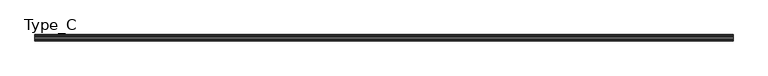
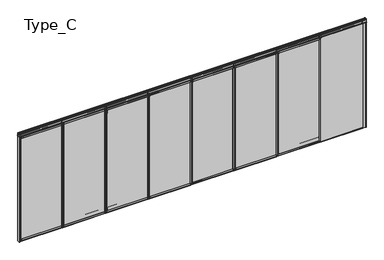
"""IFC4 building model written with IfcOpenShell, lengths in millimetres: proxy geometry, Planner Wall_ダブルガラス(NO Door) : Type_C."""

from ifc_helpers import new_model, si_unit, point, frame, frame_2d, origin, origin_with_axes, place, context, project, spatial, polyline, circle_curve, trimmed, segment, composite_curve, outline, extrude, source, transform, mapped, element, save


def type_c_bcd6d19d(model_context):
    return source(origin(), model_context, "Body", "SweptSolid", [
        extrude(outline(polyline([(-3223.5, -25.0), (-3223.5, 25.0), (-2081.375, 25.0), (-2081.375, -25.0), (-3223.5, -25.0)])), origin_with_axes(), (0.0, 0.0, 1.0), 65.0),
        extrude(outline(polyline([(-2097.875, 25.0), (-3201.5, 25.0), (-3201.5, 35.0), (-2097.875, 35.0), (-2097.875, 25.0)])), frame((0.0, 0.0, 2935.0), z_axis=(0.0, 0.0, 1.0), x_axis=(1.0, 0.0, 0.0)), (0.0, 0.0, 1.0), 40.0),
        extrude(outline(polyline([(-2097.875, 25.0), (-3201.5, 25.0), (-3201.5, 35.0), (-2097.875, 35.0), (-2097.875, 25.0)])), frame((0.0, 0.0, 25.0), z_axis=(0.0, 0.0, 1.0), x_axis=(1.0, 0.0, 0.0)), (0.0, 0.0, 1.0), 40.0),
        extrude(outline(polyline([(-3183.5, -27.0), (-3201.5, -27.0), (-3201.5, 27.0), (-3183.5, 27.0), (-3183.5, -27.0)])), frame((0.0, 0.0, 65.0), z_axis=(0.0, 0.0, 1.0), x_axis=(1.0, 0.0, 0.0)), (0.0, 0.0, 1.0), 2870.0),
        extrude(outline(polyline([(-2097.875, -27.0), (-2115.875, -27.0), (-2115.875, 27.0), (-2097.875, 27.0), (-2097.875, -27.0)])), frame((0.0, 0.0, 65.0), z_axis=(0.0, 0.0, 1.0), x_axis=(1.0, 0.0, 0.0)), (0.0, 0.0, 1.0), 2870.0),
        extrude(outline(polyline([(-2115.875, -27.0), (-3183.5, -27.0), (-3183.5, 27.0), (-2115.875, 27.0), (-2115.875, -27.0)])), frame((0.0, 0.0, 65.0), z_axis=(0.0, 0.0, 1.0), x_axis=(1.0, 0.0, 0.0)), (0.0, 0.0, 1.0), 102.0),
        extrude(outline(polyline([(-2115.875, -27.0), (-3183.5, -27.0), (-3183.5, 27.0), (-2115.875, 27.0), (-2115.875, -27.0)])), frame((0.0, 0.0, 2833.0), z_axis=(0.0, 0.0, 1.0), x_axis=(1.0, 0.0, 0.0)), (0.0, 0.0, 1.0), 102.0),
        extrude(outline(composite_curve([segment(polyline([(23.5, 3050.1000003), (26.5, 3047.1000003), (26.5, 3032.6)]), True, "CONTINUOUS"), segment(trimmed(circle_curve(frame_2d((25.0, 3032.6)), 1.5), [point((26.5, 3032.6))], [point((25.0, 3031.1))], False, "CARTESIAN"), True, "CONTINUOUS"), segment(polyline([(25.0, 3031.1), (9.0, 3031.1), (9.0, 3019.1000003), (23.5, 3019.1000003), (26.5, 3016.1000003), (26.5, 3001.5)]), True, "CONTINUOUS"), segment(trimmed(circle_curve(frame_2d((25.0, 3001.5)), 1.5), [point((26.5, 3001.5))], [point((25.0, 3000.0))], False, "CARTESIAN"), True, "CONTINUOUS"), segment(polyline([(25.0, 3000.0), (7.5, 3000.0), (7.5, 2994.5), (25.0, 2994.5), (25.0, 2935.0), (-25.0, 2935.0), (-25.0, 2994.5), (-7.5, 2994.5), (-7.5, 3000.0), (-25.0, 3000.0)]), True, "CONTINUOUS"), segment(trimmed(circle_curve(frame_2d((-25.0, 3001.5)), 1.5), [point((-25.0, 3000.0))], [point((-26.5, 3001.5))], False, "CARTESIAN"), True, "CONTINUOUS"), segment(polyline([(-26.5, 3001.5), (-26.5, 3016.1000003), (-23.5, 3019.1000003), (-9.0, 3019.1000003), (-9.0, 3031.1), (-25.0, 3031.1)]), True, "CONTINUOUS"), segment(trimmed(circle_curve(frame_2d((-25.0, 3032.6)), 1.5), [point((-25.0, 3031.1))], [point((-26.5, 3032.6))], False, "CARTESIAN"), True, "CONTINUOUS"), segment(polyline([(-26.5, 3032.6), (-26.5, 3047.1000003), (-23.5, 3050.1000003), (23.5, 3050.1000003)]), True, "CONTINUOUS")], self_intersect=False)), frame((-3223.5, 0.0, 0.0), z_axis=(1.0, 0.0, 0.0), x_axis=(0.0, 1.0, 0.0)), (0.0, 0.0, 1.0), 1147.625),
        extrude(outline(polyline([(-2097.875, 27.5), (-3201.5, 27.5), (-3201.5, 32.5), (-2097.875, 32.5), (-2097.875, 27.5)])), frame((0.0, 0.0, 65.0), z_axis=(0.0, 0.0, 1.0), x_axis=(1.0, 0.0, 0.0)), (0.0, 0.0, 1.0), 2870.0),
        extrude(outline(polyline([(-2097.875, -32.5), (-3201.5, -32.5), (-3201.5, -27.5), (-2097.875, -27.5), (-2097.875, -32.5)])), frame((0.0, 0.0, 65.0), z_axis=(0.0, 0.0, 1.0), x_axis=(1.0, 0.0, 0.0)), (0.0, 0.0, 1.0), 2870.0),
        extrude(outline(polyline([(-2097.875, -35.0), (-3201.5, -35.0), (-3201.5, -25.0), (-2097.875, -25.0), (-2097.875, -35.0)])), frame((0.0, 0.0, 2935.0), z_axis=(0.0, 0.0, 1.0), x_axis=(1.0, 0.0, 0.0)), (0.0, 0.0, 1.0), 40.0),
        extrude(outline(polyline([(-2097.875, -35.0), (-3201.5, -35.0), (-3201.5, -25.0), (-2097.875, -25.0), (-2097.875, -35.0)])), frame((0.0, 0.0, 25.0), z_axis=(0.0, 0.0, 1.0), x_axis=(1.0, 0.0, 0.0)), (0.0, 0.0, 1.0), 40.0),
        extrude(outline(polyline([(-3237.0, -25.0), (-3237.0, 25.0), (-3223.5, 25.0), (-3223.5, -25.0), (-3237.0, -25.0)])), frame((0.0, 0.0, 53.0), z_axis=(0.0, 0.0, 1.0), x_axis=(1.0, 0.0, 0.0)), (0.0, 0.0, 1.0), 2869.0),
        extrude(outline(polyline([(-2097.875, 35.0), (-2075.875, 35.0), (-2075.875, 25.0), (-2097.875, 25.0), (-2097.875, 35.0)])), frame((0.0, 0.0, 25.0), z_axis=(0.0, 0.0, 1.0), x_axis=(1.0, 0.0, 0.0)), (0.0, 0.0, 1.0), 2950.0),
        extrude(outline(polyline([(-2097.875, -35.0), (-2097.875, -25.0), (-2075.875, -25.0), (-2075.875, -35.0), (-2097.875, -35.0)])), frame((0.0, 0.0, 25.0), z_axis=(0.0, 0.0, 1.0), x_axis=(1.0, 0.0, 0.0)), (0.0, 0.0, 1.0), 2950.0),
        extrude(outline(polyline([(-3223.5, -35.0), (-3223.5, -25.0), (-3201.5, -25.0), (-3201.5, -35.0), (-3223.5, -35.0)])), frame((0.0, 0.0, 25.0), z_axis=(0.0, 0.0, 1.0), x_axis=(1.0, 0.0, 0.0)), (0.0, 0.0, 1.0), 2950.0),
        extrude(outline(polyline([(-3223.5, 25.0), (-3223.5, 35.0), (-3201.5, 35.0), (-3201.5, 25.0), (-3223.5, 25.0)])), frame((0.0, 0.0, 25.0), z_axis=(0.0, 0.0, 1.0), x_axis=(1.0, 0.0, 0.0)), (0.0, 0.0, 1.0), 2950.0),
        extrude(outline(polyline([(-2067.875, -25.0), (-2067.875, 25.0), (-925.75, 25.0), (-925.75, -25.0), (-2067.875, -25.0)])), origin_with_axes(), (0.0, 0.0, 1.0), 65.0),
        extrude(outline(polyline([(-942.25, 25.0), (-2045.875, 25.0), (-2045.875, 35.0), (-942.25, 35.0), (-942.25, 25.0)])), frame((0.0, 0.0, 2935.0), z_axis=(0.0, 0.0, 1.0), x_axis=(1.0, 0.0, 0.0)), (0.0, 0.0, 1.0), 40.0),
        extrude(outline(polyline([(-942.25, 25.0), (-2045.875, 25.0), (-2045.875, 35.0), (-942.25, 35.0), (-942.25, 25.0)])), frame((0.0, 0.0, 25.0), z_axis=(0.0, 0.0, 1.0), x_axis=(1.0, 0.0, 0.0)), (0.0, 0.0, 1.0), 40.0),
        extrude(outline(polyline([(-2027.875, -27.0), (-2045.875, -27.0), (-2045.875, 27.0), (-2027.875, 27.0), (-2027.875, -27.0)])), frame((0.0, 0.0, 65.0), z_axis=(0.0, 0.0, 1.0), x_axis=(1.0, 0.0, 0.0)), (0.0, 0.0, 1.0), 2870.0),
        extrude(outline(polyline([(-942.25, -27.0), (-960.25, -27.0), (-960.25, 27.0), (-942.25, 27.0), (-942.25, -27.0)])), frame((0.0, 0.0, 65.0), z_axis=(0.0, 0.0, 1.0), x_axis=(1.0, 0.0, 0.0)), (0.0, 0.0, 1.0), 2870.0),
        extrude(outline(polyline([(-960.25, -27.0), (-2027.875, -27.0), (-2027.875, 27.0), (-960.25, 27.0), (-960.25, -27.0)])), frame((0.0, 0.0, 65.0), z_axis=(0.0, 0.0, 1.0), x_axis=(1.0, 0.0, 0.0)), (0.0, 0.0, 1.0), 102.0),
        extrude(outline(polyline([(-960.25, -27.0), (-2027.875, -27.0), (-2027.875, 27.0), (-960.25, 27.0), (-960.25, -27.0)])), frame((0.0, 0.0, 2833.0), z_axis=(0.0, 0.0, 1.0), x_axis=(1.0, 0.0, 0.0)), (0.0, 0.0, 1.0), 102.0),
        extrude(outline(composite_curve([segment(polyline([(23.5, 3050.1000003), (26.5, 3047.1000003), (26.5, 3032.6)]), True, "CONTINUOUS"), segment(trimmed(circle_curve(frame_2d((25.0, 3032.6)), 1.5), [point((26.5, 3032.6))], [point((25.0, 3031.1))], False, "CARTESIAN"), True, "CONTINUOUS"), segment(polyline([(25.0, 3031.1), (9.0, 3031.1), (9.0, 3019.1000003), (23.5, 3019.1000003), (26.5, 3016.1000003), (26.5, 3001.5)]), True, "CONTINUOUS"), segment(trimmed(circle_curve(frame_2d((25.0, 3001.5)), 1.5), [point((26.5, 3001.5))], [point((25.0, 3000.0))], False, "CARTESIAN"), True, "CONTINUOUS"), segment(polyline([(25.0, 3000.0), (7.5, 3000.0), (7.5, 2994.5), (25.0, 2994.5), (25.0, 2935.0), (-25.0, 2935.0), (-25.0, 2994.5), (-7.5, 2994.5), (-7.5, 3000.0), (-25.0, 3000.0)]), True, "CONTINUOUS"), segment(trimmed(circle_curve(frame_2d((-25.0, 3001.5)), 1.5), [point((-25.0, 3000.0))], [point((-26.5, 3001.5))], False, "CARTESIAN"), True, "CONTINUOUS"), segment(polyline([(-26.5, 3001.5), (-26.5, 3016.1000003), (-23.5, 3019.1000003), (-9.0, 3019.1000003), (-9.0, 3031.1), (-25.0, 3031.1)]), True, "CONTINUOUS"), segment(trimmed(circle_curve(frame_2d((-25.0, 3032.6)), 1.5), [point((-25.0, 3031.1))], [point((-26.5, 3032.6))], False, "CARTESIAN"), True, "CONTINUOUS"), segment(polyline([(-26.5, 3032.6), (-26.5, 3047.1000003), (-23.5, 3050.1000003), (23.5, 3050.1000003)]), True, "CONTINUOUS")], self_intersect=False)), frame((-2067.875, 0.0, 0.0), z_axis=(1.0, 0.0, 0.0), x_axis=(0.0, 1.0, 0.0)), (0.0, 0.0, 1.0), 1147.625),
        extrude(outline(polyline([(-942.25, 27.5), (-2045.875, 27.5), (-2045.875, 32.5), (-942.25, 32.5), (-942.25, 27.5)])), frame((0.0, 0.0, 65.0), z_axis=(0.0, 0.0, 1.0), x_axis=(1.0, 0.0, 0.0)), (0.0, 0.0, 1.0), 2870.0),
        extrude(outline(polyline([(-942.25, -32.5), (-2045.875, -32.5), (-2045.875, -27.5), (-942.25, -27.5), (-942.25, -32.5)])), frame((0.0, 0.0, 65.0), z_axis=(0.0, 0.0, 1.0), x_axis=(1.0, 0.0, 0.0)), (0.0, 0.0, 1.0), 2870.0),
        extrude(outline(polyline([(-942.25, -35.0), (-2045.875, -35.0), (-2045.875, -25.0), (-942.25, -25.0), (-942.25, -35.0)])), frame((0.0, 0.0, 2935.0), z_axis=(0.0, 0.0, 1.0), x_axis=(1.0, 0.0, 0.0)), (0.0, 0.0, 1.0), 40.0),
        extrude(outline(polyline([(-942.25, -35.0), (-2045.875, -35.0), (-2045.875, -25.0), (-942.25, -25.0), (-942.25, -35.0)])), frame((0.0, 0.0, 25.0), z_axis=(0.0, 0.0, 1.0), x_axis=(1.0, 0.0, 0.0)), (0.0, 0.0, 1.0), 40.0),
        extrude(outline(polyline([(-2081.375, -25.0), (-2081.375, 25.0), (-2067.875, 25.0), (-2067.875, -25.0), (-2081.375, -25.0)])), frame((0.0, 0.0, 53.0), z_axis=(0.0, 0.0, 1.0), x_axis=(1.0, 0.0, 0.0)), (0.0, 0.0, 1.0), 2869.0),
        extrude(outline(polyline([(-942.25, 35.0), (-920.25, 35.0), (-920.25, 25.0), (-942.25, 25.0), (-942.25, 35.0)])), frame((0.0, 0.0, 25.0), z_axis=(0.0, 0.0, 1.0), x_axis=(1.0, 0.0, 0.0)), (0.0, 0.0, 1.0), 2950.0),
        extrude(outline(polyline([(-942.25, -35.0), (-942.25, -25.0), (-920.25, -25.0), (-920.25, -35.0), (-942.25, -35.0)])), frame((0.0, 0.0, 25.0), z_axis=(0.0, 0.0, 1.0), x_axis=(1.0, 0.0, 0.0)), (0.0, 0.0, 1.0), 2950.0),
        extrude(outline(polyline([(-2067.875, -35.0), (-2067.875, -25.0), (-2045.875, -25.0), (-2045.875, -35.0), (-2067.875, -35.0)])), frame((0.0, 0.0, 25.0), z_axis=(0.0, 0.0, 1.0), x_axis=(1.0, 0.0, 0.0)), (0.0, 0.0, 1.0), 2950.0),
        extrude(outline(polyline([(-2067.875, 25.0), (-2067.875, 35.0), (-2045.875, 35.0), (-2045.875, 25.0), (-2067.875, 25.0)])), frame((0.0, 0.0, 25.0), z_axis=(0.0, 0.0, 1.0), x_axis=(1.0, 0.0, 0.0)), (0.0, 0.0, 1.0), 2950.0),
        extrude(outline(polyline([(-912.25, -25.0), (-912.25, 25.0), (229.875, 25.0), (229.875, -25.0), (-912.25, -25.0)])), origin_with_axes(), (0.0, 0.0, 1.0), 65.0),
        extrude(outline(polyline([(213.375, 25.0), (-890.25, 25.0), (-890.25, 35.0), (213.375, 35.0), (213.375, 25.0)])), frame((0.0, 0.0, 2935.0), z_axis=(0.0, 0.0, 1.0), x_axis=(1.0, 0.0, 0.0)), (0.0, 0.0, 1.0), 40.0),
        extrude(outline(polyline([(213.375, 25.0), (-890.25, 25.0), (-890.25, 35.0), (213.375, 35.0), (213.375, 25.0)])), frame((0.0, 0.0, 25.0), z_axis=(0.0, 0.0, 1.0), x_axis=(1.0, 0.0, 0.0)), (0.0, 0.0, 1.0), 40.0),
        extrude(outline(polyline([(-872.25, -27.0), (-890.25, -27.0), (-890.25, 27.0), (-872.25, 27.0), (-872.25, -27.0)])), frame((0.0, 0.0, 65.0), z_axis=(0.0, 0.0, 1.0), x_axis=(1.0, 0.0, 0.0)), (0.0, 0.0, 1.0), 2870.0),
        extrude(outline(polyline([(213.375, -27.0), (195.375, -27.0), (195.375, 27.0), (213.375, 27.0), (213.375, -27.0)])), frame((0.0, 0.0, 65.0), z_axis=(0.0, 0.0, 1.0), x_axis=(1.0, 0.0, 0.0)), (0.0, 0.0, 1.0), 2870.0),
        extrude(outline(polyline([(195.375, -27.0), (-872.25, -27.0), (-872.25, 27.0), (195.375, 27.0), (195.375, -27.0)])), frame((0.0, 0.0, 65.0), z_axis=(0.0, 0.0, 1.0), x_axis=(1.0, 0.0, 0.0)), (0.0, 0.0, 1.0), 102.0),
        extrude(outline(polyline([(195.375, -27.0), (-872.25, -27.0), (-872.25, 27.0), (195.375, 27.0), (195.375, -27.0)])), frame((0.0, 0.0, 2833.0), z_axis=(0.0, 0.0, 1.0), x_axis=(1.0, 0.0, 0.0)), (0.0, 0.0, 1.0), 102.0),
        extrude(outline(composite_curve([segment(polyline([(23.5, 3050.1000003), (26.5, 3047.1000003), (26.5, 3032.6)]), True, "CONTINUOUS"), segment(trimmed(circle_curve(frame_2d((25.0, 3032.6)), 1.5), [point((26.5, 3032.6))], [point((25.0, 3031.1))], False, "CARTESIAN"), True, "CONTINUOUS"), segment(polyline([(25.0, 3031.1), (9.0, 3031.1), (9.0, 3019.1000003), (23.5, 3019.1000003), (26.5, 3016.1000003), (26.5, 3001.5)]), True, "CONTINUOUS"), segment(trimmed(circle_curve(frame_2d((25.0, 3001.5)), 1.5), [point((26.5, 3001.5))], [point((25.0, 3000.0))], False, "CARTESIAN"), True, "CONTINUOUS"), segment(polyline([(25.0, 3000.0), (7.5, 3000.0), (7.5, 2994.5), (25.0, 2994.5), (25.0, 2935.0), (-25.0, 2935.0), (-25.0, 2994.5), (-7.5, 2994.5), (-7.5, 3000.0), (-25.0, 3000.0)]), True, "CONTINUOUS"), segment(trimmed(circle_curve(frame_2d((-25.0, 3001.5)), 1.5), [point((-25.0, 3000.0))], [point((-26.5, 3001.5))], False, "CARTESIAN"), True, "CONTINUOUS"), segment(polyline([(-26.5, 3001.5), (-26.5, 3016.1000003), (-23.5, 3019.1000003), (-9.0, 3019.1000003), (-9.0, 3031.1), (-25.0, 3031.1)]), True, "CONTINUOUS"), segment(trimmed(circle_curve(frame_2d((-25.0, 3032.6)), 1.5), [point((-25.0, 3031.1))], [point((-26.5, 3032.6))], False, "CARTESIAN"), True, "CONTINUOUS"), segment(polyline([(-26.5, 3032.6), (-26.5, 3047.1000003), (-23.5, 3050.1000003), (23.5, 3050.1000003)]), True, "CONTINUOUS")], self_intersect=False)), frame((-912.25, 0.0, 0.0), z_axis=(1.0, 0.0, 0.0), x_axis=(0.0, 1.0, 0.0)), (0.0, 0.0, 1.0), 1147.625),
        extrude(outline(polyline([(213.375, 27.5), (-890.25, 27.5), (-890.25, 32.5), (213.375, 32.5), (213.375, 27.5)])), frame((0.0, 0.0, 65.0), z_axis=(0.0, 0.0, 1.0), x_axis=(1.0, 0.0, 0.0)), (0.0, 0.0, 1.0), 2870.0),
        extrude(outline(polyline([(213.375, -32.5), (-890.25, -32.5), (-890.25, -27.5), (213.375, -27.5), (213.375, -32.5)])), frame((0.0, 0.0, 65.0), z_axis=(0.0, 0.0, 1.0), x_axis=(1.0, 0.0, 0.0)), (0.0, 0.0, 1.0), 2870.0),
        extrude(outline(polyline([(213.375, -35.0), (-890.25, -35.0), (-890.25, -25.0), (213.375, -25.0), (213.375, -35.0)])), frame((0.0, 0.0, 2935.0), z_axis=(0.0, 0.0, 1.0), x_axis=(1.0, 0.0, 0.0)), (0.0, 0.0, 1.0), 40.0),
        extrude(outline(polyline([(213.375, -35.0), (-890.25, -35.0), (-890.25, -25.0), (213.375, -25.0), (213.375, -35.0)])), frame((0.0, 0.0, 25.0), z_axis=(0.0, 0.0, 1.0), x_axis=(1.0, 0.0, 0.0)), (0.0, 0.0, 1.0), 40.0),
        extrude(outline(polyline([(-925.75, -25.0), (-925.75, 25.0), (-912.25, 25.0), (-912.25, -25.0), (-925.75, -25.0)])), frame((0.0, 0.0, 53.0), z_axis=(0.0, 0.0, 1.0), x_axis=(1.0, 0.0, 0.0)), (0.0, 0.0, 1.0), 2869.0),
        extrude(outline(polyline([(213.375, 35.0), (235.375, 35.0), (235.375, 25.0), (213.375, 25.0), (213.375, 35.0)])), frame((0.0, 0.0, 25.0), z_axis=(0.0, 0.0, 1.0), x_axis=(1.0, 0.0, 0.0)), (0.0, 0.0, 1.0), 2950.0),
        extrude(outline(polyline([(213.375, -35.0), (213.375, -25.0), (235.375, -25.0), (235.375, -35.0), (213.375, -35.0)])), frame((0.0, 0.0, 25.0), z_axis=(0.0, 0.0, 1.0), x_axis=(1.0, 0.0, 0.0)), (0.0, 0.0, 1.0), 2950.0),
        extrude(outline(polyline([(-912.25, -35.0), (-912.25, -25.0), (-890.25, -25.0), (-890.25, -35.0), (-912.25, -35.0)])), frame((0.0, 0.0, 25.0), z_axis=(0.0, 0.0, 1.0), x_axis=(1.0, 0.0, 0.0)), (0.0, 0.0, 1.0), 2950.0),
        extrude(outline(polyline([(-912.25, 25.0), (-912.25, 35.0), (-890.25, 35.0), (-890.25, 25.0), (-912.25, 25.0)])), frame((0.0, 0.0, 25.0), z_axis=(0.0, 0.0, 1.0), x_axis=(1.0, 0.0, 0.0)), (0.0, 0.0, 1.0), 2950.0),
        extrude(outline(polyline([(243.375, -25.0), (243.375, 25.0), (1385.5, 25.0), (1385.5, -25.0), (243.375, -25.0)])), origin_with_axes(), (0.0, 0.0, 1.0), 65.0),
        extrude(outline(polyline([(1369.0, 25.0), (265.375, 25.0), (265.375, 35.0), (1369.0, 35.0), (1369.0, 25.0)])), frame((0.0, 0.0, 2935.0), z_axis=(0.0, 0.0, 1.0), x_axis=(1.0, 0.0, 0.0)), (0.0, 0.0, 1.0), 40.0),
        extrude(outline(polyline([(1369.0, 25.0), (265.375, 25.0), (265.375, 35.0), (1369.0, 35.0), (1369.0, 25.0)])), frame((0.0, 0.0, 25.0), z_axis=(0.0, 0.0, 1.0), x_axis=(1.0, 0.0, 0.0)), (0.0, 0.0, 1.0), 40.0),
        extrude(outline(polyline([(283.375, -27.0), (265.375, -27.0), (265.375, 27.0), (283.375, 27.0), (283.375, -27.0)])), frame((0.0, 0.0, 65.0), z_axis=(0.0, 0.0, 1.0), x_axis=(1.0, 0.0, 0.0)), (0.0, 0.0, 1.0), 2870.0),
        extrude(outline(polyline([(1369.0, -27.0), (1351.0, -27.0), (1351.0, 27.0), (1369.0, 27.0), (1369.0, -27.0)])), frame((0.0, 0.0, 65.0), z_axis=(0.0, 0.0, 1.0), x_axis=(1.0, 0.0, 0.0)), (0.0, 0.0, 1.0), 2870.0),
        extrude(outline(polyline([(1351.0, -27.0), (283.375, -27.0), (283.375, 27.0), (1351.0, 27.0), (1351.0, -27.0)])), frame((0.0, 0.0, 65.0), z_axis=(0.0, 0.0, 1.0), x_axis=(1.0, 0.0, 0.0)), (0.0, 0.0, 1.0), 102.0),
        extrude(outline(polyline([(1351.0, -27.0), (283.375, -27.0), (283.375, 27.0), (1351.0, 27.0), (1351.0, -27.0)])), frame((0.0, 0.0, 2833.0), z_axis=(0.0, 0.0, 1.0), x_axis=(1.0, 0.0, 0.0)), (0.0, 0.0, 1.0), 102.0),
        extrude(outline(composite_curve([segment(polyline([(23.5, 3050.1000003), (26.5, 3047.1000003), (26.5, 3032.6)]), True, "CONTINUOUS"), segment(trimmed(circle_curve(frame_2d((25.0, 3032.6)), 1.5), [point((26.5, 3032.6))], [point((25.0, 3031.1))], False, "CARTESIAN"), True, "CONTINUOUS"), segment(polyline([(25.0, 3031.1), (9.0, 3031.1), (9.0, 3019.1000003), (23.5, 3019.1000003), (26.5, 3016.1000003), (26.5, 3001.5)]), True, "CONTINUOUS"), segment(trimmed(circle_curve(frame_2d((25.0, 3001.5)), 1.5), [point((26.5, 3001.5))], [point((25.0, 3000.0))], False, "CARTESIAN"), True, "CONTINUOUS"), segment(polyline([(25.0, 3000.0), (7.5, 3000.0), (7.5, 2994.5), (25.0, 2994.5), (25.0, 2935.0), (-25.0, 2935.0), (-25.0, 2994.5), (-7.5, 2994.5), (-7.5, 3000.0), (-25.0, 3000.0)]), True, "CONTINUOUS"), segment(trimmed(circle_curve(frame_2d((-25.0, 3001.5)), 1.5), [point((-25.0, 3000.0))], [point((-26.5, 3001.5))], False, "CARTESIAN"), True, "CONTINUOUS"), segment(polyline([(-26.5, 3001.5), (-26.5, 3016.1000003), (-23.5, 3019.1000003), (-9.0, 3019.1000003), (-9.0, 3031.1), (-25.0, 3031.1)]), True, "CONTINUOUS"), segment(trimmed(circle_curve(frame_2d((-25.0, 3032.6)), 1.5), [point((-25.0, 3031.1))], [point((-26.5, 3032.6))], False, "CARTESIAN"), True, "CONTINUOUS"), segment(polyline([(-26.5, 3032.6), (-26.5, 3047.1000003), (-23.5, 3050.1000003), (23.5, 3050.1000003)]), True, "CONTINUOUS")], self_intersect=False)), frame((243.375, 0.0, 0.0), z_axis=(1.0, 0.0, 0.0), x_axis=(0.0, 1.0, 0.0)), (0.0, 0.0, 1.0), 1147.625),
        extrude(outline(polyline([(1369.0, 27.5), (265.375, 27.5), (265.375, 32.5), (1369.0, 32.5), (1369.0, 27.5)])), frame((0.0, 0.0, 65.0), z_axis=(0.0, 0.0, 1.0), x_axis=(1.0, 0.0, 0.0)), (0.0, 0.0, 1.0), 2870.0),
        extrude(outline(polyline([(1369.0, -32.5), (265.375, -32.5), (265.375, -27.5), (1369.0, -27.5), (1369.0, -32.5)])), frame((0.0, 0.0, 65.0), z_axis=(0.0, 0.0, 1.0), x_axis=(1.0, 0.0, 0.0)), (0.0, 0.0, 1.0), 2870.0),
        extrude(outline(polyline([(1369.0, -35.0), (265.375, -35.0), (265.375, -25.0), (1369.0, -25.0), (1369.0, -35.0)])), frame((0.0, 0.0, 2935.0), z_axis=(0.0, 0.0, 1.0), x_axis=(1.0, 0.0, 0.0)), (0.0, 0.0, 1.0), 40.0),
        extrude(outline(polyline([(1369.0, -35.0), (265.375, -35.0), (265.375, -25.0), (1369.0, -25.0), (1369.0, -35.0)])), frame((0.0, 0.0, 25.0), z_axis=(0.0, 0.0, 1.0), x_axis=(1.0, 0.0, 0.0)), (0.0, 0.0, 1.0), 40.0),
        extrude(outline(polyline([(229.875, -25.0), (229.875, 25.0), (243.375, 25.0), (243.375, -25.0), (229.875, -25.0)])), frame((0.0, 0.0, 53.0), z_axis=(0.0, 0.0, 1.0), x_axis=(1.0, 0.0, 0.0)), (0.0, 0.0, 1.0), 2869.0),
        extrude(outline(polyline([(1369.0, 35.0), (1391.0, 35.0), (1391.0, 25.0), (1369.0, 25.0), (1369.0, 35.0)])), frame((0.0, 0.0, 25.0), z_axis=(0.0, 0.0, 1.0), x_axis=(1.0, 0.0, 0.0)), (0.0, 0.0, 1.0), 2950.0),
        extrude(outline(polyline([(1369.0, -35.0), (1369.0, -25.0), (1391.0, -25.0), (1391.0, -35.0), (1369.0, -35.0)])), frame((0.0, 0.0, 25.0), z_axis=(0.0, 0.0, 1.0), x_axis=(1.0, 0.0, 0.0)), (0.0, 0.0, 1.0), 2950.0),
        extrude(outline(polyline([(243.375, -35.0), (243.375, -25.0), (265.375, -25.0), (265.375, -35.0), (243.375, -35.0)])), frame((0.0, 0.0, 25.0), z_axis=(0.0, 0.0, 1.0), x_axis=(1.0, 0.0, 0.0)), (0.0, 0.0, 1.0), 2950.0),
        extrude(outline(polyline([(243.375, 25.0), (243.375, 35.0), (265.375, 35.0), (265.375, 25.0), (243.375, 25.0)])), frame((0.0, 0.0, 25.0), z_axis=(0.0, 0.0, 1.0), x_axis=(1.0, 0.0, 0.0)), (0.0, 0.0, 1.0), 2950.0),
        extrude(outline(polyline([(1399.0, -25.0), (1399.0, 25.0), (2541.125, 25.0), (2541.125, -25.0), (1399.0, -25.0)])), origin_with_axes(), (0.0, 0.0, 1.0), 65.0),
        extrude(outline(polyline([(2524.625, 25.0), (1421.0, 25.0), (1421.0, 35.0), (2524.625, 35.0), (2524.625, 25.0)])), frame((0.0, 0.0, 2935.0), z_axis=(0.0, 0.0, 1.0), x_axis=(1.0, 0.0, 0.0)), (0.0, 0.0, 1.0), 40.0),
        extrude(outline(polyline([(2524.625, 25.0), (1421.0, 25.0), (1421.0, 35.0), (2524.625, 35.0), (2524.625, 25.0)])), frame((0.0, 0.0, 25.0), z_axis=(0.0, 0.0, 1.0), x_axis=(1.0, 0.0, 0.0)), (0.0, 0.0, 1.0), 40.0),
        extrude(outline(polyline([(1439.0, -27.0), (1421.0, -27.0), (1421.0, 27.0), (1439.0, 27.0), (1439.0, -27.0)])), frame((0.0, 0.0, 65.0), z_axis=(0.0, 0.0, 1.0), x_axis=(1.0, 0.0, 0.0)), (0.0, 0.0, 1.0), 2870.0),
        extrude(outline(polyline([(2524.625, -27.0), (2506.625, -27.0), (2506.625, 27.0), (2524.625, 27.0), (2524.625, -27.0)])), frame((0.0, 0.0, 65.0), z_axis=(0.0, 0.0, 1.0), x_axis=(1.0, 0.0, 0.0)), (0.0, 0.0, 1.0), 2870.0),
        extrude(outline(polyline([(2506.625, -27.0), (1439.0, -27.0), (1439.0, 27.0), (2506.625, 27.0), (2506.625, -27.0)])), frame((0.0, 0.0, 65.0), z_axis=(0.0, 0.0, 1.0), x_axis=(1.0, 0.0, 0.0)), (0.0, 0.0, 1.0), 102.0),
        extrude(outline(polyline([(2506.625, -27.0), (1439.0, -27.0), (1439.0, 27.0), (2506.625, 27.0), (2506.625, -27.0)])), frame((0.0, 0.0, 2833.0), z_axis=(0.0, 0.0, 1.0), x_axis=(1.0, 0.0, 0.0)), (0.0, 0.0, 1.0), 102.0),
        extrude(outline(composite_curve([segment(polyline([(23.5, 3050.1000003), (26.5, 3047.1000003), (26.5, 3032.6)]), True, "CONTINUOUS"), segment(trimmed(circle_curve(frame_2d((25.0, 3032.6)), 1.5), [point((26.5, 3032.6))], [point((25.0, 3031.1))], False, "CARTESIAN"), True, "CONTINUOUS"), segment(polyline([(25.0, 3031.1), (9.0, 3031.1), (9.0, 3019.1000003), (23.5, 3019.1000003), (26.5, 3016.1000003), (26.5, 3001.5)]), True, "CONTINUOUS"), segment(trimmed(circle_curve(frame_2d((25.0, 3001.5)), 1.5), [point((26.5, 3001.5))], [point((25.0, 3000.0))], False, "CARTESIAN"), True, "CONTINUOUS"), segment(polyline([(25.0, 3000.0), (7.5, 3000.0), (7.5, 2994.5), (25.0, 2994.5), (25.0, 2935.0), (-25.0, 2935.0), (-25.0, 2994.5), (-7.5, 2994.5), (-7.5, 3000.0), (-25.0, 3000.0)]), True, "CONTINUOUS"), segment(trimmed(circle_curve(frame_2d((-25.0, 3001.5)), 1.5), [point((-25.0, 3000.0))], [point((-26.5, 3001.5))], False, "CARTESIAN"), True, "CONTINUOUS"), segment(polyline([(-26.5, 3001.5), (-26.5, 3016.1000003), (-23.5, 3019.1000003), (-9.0, 3019.1000003), (-9.0, 3031.1), (-25.0, 3031.1)]), True, "CONTINUOUS"), segment(trimmed(circle_curve(frame_2d((-25.0, 3032.6)), 1.5), [point((-25.0, 3031.1))], [point((-26.5, 3032.6))], False, "CARTESIAN"), True, "CONTINUOUS"), segment(polyline([(-26.5, 3032.6), (-26.5, 3047.1000003), (-23.5, 3050.1000003), (23.5, 3050.1000003)]), True, "CONTINUOUS")], self_intersect=False)), frame((1399.0, 0.0, 0.0), z_axis=(1.0, 0.0, 0.0), x_axis=(0.0, 1.0, 0.0)), (0.0, 0.0, 1.0), 1147.625),
        extrude(outline(polyline([(2524.625, 27.5), (1421.0, 27.5), (1421.0, 32.5), (2524.625, 32.5), (2524.625, 27.5)])), frame((0.0, 0.0, 65.0), z_axis=(0.0, 0.0, 1.0), x_axis=(1.0, 0.0, 0.0)), (0.0, 0.0, 1.0), 2870.0),
        extrude(outline(polyline([(2524.625, -32.5), (1421.0, -32.5), (1421.0, -27.5), (2524.625, -27.5), (2524.625, -32.5)])), frame((0.0, 0.0, 65.0), z_axis=(0.0, 0.0, 1.0), x_axis=(1.0, 0.0, 0.0)), (0.0, 0.0, 1.0), 2870.0),
        extrude(outline(polyline([(2524.625, -35.0), (1421.0, -35.0), (1421.0, -25.0), (2524.625, -25.0), (2524.625, -35.0)])), frame((0.0, 0.0, 2935.0), z_axis=(0.0, 0.0, 1.0), x_axis=(1.0, 0.0, 0.0)), (0.0, 0.0, 1.0), 40.0),
        extrude(outline(polyline([(2524.625, -35.0), (1421.0, -35.0), (1421.0, -25.0), (2524.625, -25.0), (2524.625, -35.0)])), frame((0.0, 0.0, 25.0), z_axis=(0.0, 0.0, 1.0), x_axis=(1.0, 0.0, 0.0)), (0.0, 0.0, 1.0), 40.0),
        extrude(outline(polyline([(1385.5, -25.0), (1385.5, 25.0), (1399.0, 25.0), (1399.0, -25.0), (1385.5, -25.0)])), frame((0.0, 0.0, 53.0), z_axis=(0.0, 0.0, 1.0), x_axis=(1.0, 0.0, 0.0)), (0.0, 0.0, 1.0), 2869.0),
        extrude(outline(polyline([(2524.625, 35.0), (2546.625, 35.0), (2546.625, 25.0), (2524.625, 25.0), (2524.625, 35.0)])), frame((0.0, 0.0, 25.0), z_axis=(0.0, 0.0, 1.0), x_axis=(1.0, 0.0, 0.0)), (0.0, 0.0, 1.0), 2950.0),
        extrude(outline(polyline([(2524.625, -35.0), (2524.625, -25.0), (2546.625, -25.0), (2546.625, -35.0), (2524.625, -35.0)])), frame((0.0, 0.0, 25.0), z_axis=(0.0, 0.0, 1.0), x_axis=(1.0, 0.0, 0.0)), (0.0, 0.0, 1.0), 2950.0),
        extrude(outline(polyline([(1399.0, -35.0), (1399.0, -25.0), (1421.0, -25.0), (1421.0, -35.0), (1399.0, -35.0)])), frame((0.0, 0.0, 25.0), z_axis=(0.0, 0.0, 1.0), x_axis=(1.0, 0.0, 0.0)), (0.0, 0.0, 1.0), 2950.0),
        extrude(outline(polyline([(1399.0, 25.0), (1399.0, 35.0), (1421.0, 35.0), (1421.0, 25.0), (1399.0, 25.0)])), frame((0.0, 0.0, 25.0), z_axis=(0.0, 0.0, 1.0), x_axis=(1.0, 0.0, 0.0)), (0.0, 0.0, 1.0), 2950.0),
        extrude(outline(polyline([(2554.625, -25.0), (2554.625, 25.0), (3696.75, 25.0), (3696.75, -25.0), (2554.625, -25.0)])), origin_with_axes(), (0.0, 0.0, 1.0), 65.0),
        extrude(outline(polyline([(3680.25, 25.0), (2576.625, 25.0), (2576.625, 35.0), (3680.25, 35.0), (3680.25, 25.0)])), frame((0.0, 0.0, 2935.0), z_axis=(0.0, 0.0, 1.0), x_axis=(1.0, 0.0, 0.0)), (0.0, 0.0, 1.0), 40.0),
        extrude(outline(polyline([(3680.25, 25.0), (2576.625, 25.0), (2576.625, 35.0), (3680.25, 35.0), (3680.25, 25.0)])), frame((0.0, 0.0, 25.0), z_axis=(0.0, 0.0, 1.0), x_axis=(1.0, 0.0, 0.0)), (0.0, 0.0, 1.0), 40.0),
        extrude(outline(polyline([(2594.625, -27.0), (2576.625, -27.0), (2576.625, 27.0), (2594.625, 27.0), (2594.625, -27.0)])), frame((0.0, 0.0, 65.0), z_axis=(0.0, 0.0, 1.0), x_axis=(1.0, 0.0, 0.0)), (0.0, 0.0, 1.0), 2870.0),
        extrude(outline(polyline([(3680.25, -27.0), (3662.25, -27.0), (3662.25, 27.0), (3680.25, 27.0), (3680.25, -27.0)])), frame((0.0, 0.0, 65.0), z_axis=(0.0, 0.0, 1.0), x_axis=(1.0, 0.0, 0.0)), (0.0, 0.0, 1.0), 2870.0),
        extrude(outline(polyline([(3662.25, -27.0), (2594.625, -27.0), (2594.625, 27.0), (3662.25, 27.0), (3662.25, -27.0)])), frame((0.0, 0.0, 65.0), z_axis=(0.0, 0.0, 1.0), x_axis=(1.0, 0.0, 0.0)), (0.0, 0.0, 1.0), 102.0),
        extrude(outline(polyline([(3662.25, -27.0), (2594.625, -27.0), (2594.625, 27.0), (3662.25, 27.0), (3662.25, -27.0)])), frame((0.0, 0.0, 2833.0), z_axis=(0.0, 0.0, 1.0), x_axis=(1.0, 0.0, 0.0)), (0.0, 0.0, 1.0), 102.0),
        extrude(outline(composite_curve([segment(polyline([(23.5, 3050.1000003), (26.5, 3047.1000003), (26.5, 3032.6)]), True, "CONTINUOUS"), segment(trimmed(circle_curve(frame_2d((25.0, 3032.6)), 1.5), [point((26.5, 3032.6))], [point((25.0, 3031.1))], False, "CARTESIAN"), True, "CONTINUOUS"), segment(polyline([(25.0, 3031.1), (9.0, 3031.1), (9.0, 3019.1000003), (23.5, 3019.1000003), (26.5, 3016.1000003), (26.5, 3001.5)]), True, "CONTINUOUS"), segment(trimmed(circle_curve(frame_2d((25.0, 3001.5)), 1.5), [point((26.5, 3001.5))], [point((25.0, 3000.0))], False, "CARTESIAN"), True, "CONTINUOUS"), segment(polyline([(25.0, 3000.0), (7.5, 3000.0), (7.5, 2994.5), (25.0, 2994.5), (25.0, 2935.0), (-25.0, 2935.0), (-25.0, 2994.5), (-7.5, 2994.5), (-7.5, 3000.0), (-25.0, 3000.0)]), True, "CONTINUOUS"), segment(trimmed(circle_curve(frame_2d((-25.0, 3001.5)), 1.5), [point((-25.0, 3000.0))], [point((-26.5, 3001.5))], False, "CARTESIAN"), True, "CONTINUOUS"), segment(polyline([(-26.5, 3001.5), (-26.5, 3016.1000003), (-23.5, 3019.1000003), (-9.0, 3019.1000003), (-9.0, 3031.1), (-25.0, 3031.1)]), True, "CONTINUOUS"), segment(trimmed(circle_curve(frame_2d((-25.0, 3032.6)), 1.5), [point((-25.0, 3031.1))], [point((-26.5, 3032.6))], False, "CARTESIAN"), True, "CONTINUOUS"), segment(polyline([(-26.5, 3032.6), (-26.5, 3047.1000003), (-23.5, 3050.1000003), (23.5, 3050.1000003)]), True, "CONTINUOUS")], self_intersect=False)), frame((2554.625, 0.0, 0.0), z_axis=(1.0, 0.0, 0.0), x_axis=(0.0, 1.0, 0.0)), (0.0, 0.0, 1.0), 1147.625),
        extrude(outline(polyline([(3680.25, 27.5), (2576.625, 27.5), (2576.625, 32.5), (3680.25, 32.5), (3680.25, 27.5)])), frame((0.0, 0.0, 65.0), z_axis=(0.0, 0.0, 1.0), x_axis=(1.0, 0.0, 0.0)), (0.0, 0.0, 1.0), 2870.0),
        extrude(outline(polyline([(3680.25, -32.5), (2576.625, -32.5), (2576.625, -27.5), (3680.25, -27.5), (3680.25, -32.5)])), frame((0.0, 0.0, 65.0), z_axis=(0.0, 0.0, 1.0), x_axis=(1.0, 0.0, 0.0)), (0.0, 0.0, 1.0), 2870.0),
        extrude(outline(polyline([(3680.25, -35.0), (2576.625, -35.0), (2576.625, -25.0), (3680.25, -25.0), (3680.25, -35.0)])), frame((0.0, 0.0, 2935.0), z_axis=(0.0, 0.0, 1.0), x_axis=(1.0, 0.0, 0.0)), (0.0, 0.0, 1.0), 40.0),
        extrude(outline(polyline([(3680.25, -35.0), (2576.625, -35.0), (2576.625, -25.0), (3680.25, -25.0), (3680.25, -35.0)])), frame((0.0, 0.0, 25.0), z_axis=(0.0, 0.0, 1.0), x_axis=(1.0, 0.0, 0.0)), (0.0, 0.0, 1.0), 40.0),
        extrude(outline(polyline([(2541.125, -25.0), (2541.125, 25.0), (2554.625, 25.0), (2554.625, -25.0), (2541.125, -25.0)])), frame((0.0, 0.0, 53.0), z_axis=(0.0, 0.0, 1.0), x_axis=(1.0, 0.0, 0.0)), (0.0, 0.0, 1.0), 2869.0),
        extrude(outline(polyline([(3680.25, 35.0), (3702.25, 35.0), (3702.25, 25.0), (3680.25, 25.0), (3680.25, 35.0)])), frame((0.0, 0.0, 25.0), z_axis=(0.0, 0.0, 1.0), x_axis=(1.0, 0.0, 0.0)), (0.0, 0.0, 1.0), 2950.0),
        extrude(outline(polyline([(3680.25, -35.0), (3680.25, -25.0), (3702.25, -25.0), (3702.25, -35.0), (3680.25, -35.0)])), frame((0.0, 0.0, 25.0), z_axis=(0.0, 0.0, 1.0), x_axis=(1.0, 0.0, 0.0)), (0.0, 0.0, 1.0), 2950.0),
        extrude(outline(polyline([(2554.625, -35.0), (2554.625, -25.0), (2576.625, -25.0), (2576.625, -35.0), (2554.625, -35.0)])), frame((0.0, 0.0, 25.0), z_axis=(0.0, 0.0, 1.0), x_axis=(1.0, 0.0, 0.0)), (0.0, 0.0, 1.0), 2950.0),
        extrude(outline(polyline([(2554.625, 25.0), (2554.625, 35.0), (2576.625, 35.0), (2576.625, 25.0), (2554.625, 25.0)])), frame((0.0, 0.0, 25.0), z_axis=(0.0, 0.0, 1.0), x_axis=(1.0, 0.0, 0.0)), (0.0, 0.0, 1.0), 2950.0),
        extrude(outline(polyline([(3710.25, -25.0), (3710.25, 25.0), (4852.375, 25.0), (4852.375, -25.0), (3710.25, -25.0)])), origin_with_axes(), (0.0, 0.0, 1.0), 65.0),
        extrude(outline(polyline([(4835.875, 25.0), (3732.25, 25.0), (3732.25, 35.0), (4835.875, 35.0), (4835.875, 25.0)])), frame((0.0, 0.0, 2935.0), z_axis=(0.0, 0.0, 1.0), x_axis=(1.0, 0.0, 0.0)), (0.0, 0.0, 1.0), 40.0),
        extrude(outline(polyline([(4835.875, 25.0), (3732.25, 25.0), (3732.25, 35.0), (4835.875, 35.0), (4835.875, 25.0)])), frame((0.0, 0.0, 25.0), z_axis=(0.0, 0.0, 1.0), x_axis=(1.0, 0.0, 0.0)), (0.0, 0.0, 1.0), 40.0),
        extrude(outline(polyline([(3750.25, -27.0), (3732.25, -27.0), (3732.25, 27.0), (3750.25, 27.0), (3750.25, -27.0)])), frame((0.0, 0.0, 65.0), z_axis=(0.0, 0.0, 1.0), x_axis=(1.0, 0.0, 0.0)), (0.0, 0.0, 1.0), 2870.0),
        extrude(outline(polyline([(4835.875, -27.0), (4817.875, -27.0), (4817.875, 27.0), (4835.875, 27.0), (4835.875, -27.0)])), frame((0.0, 0.0, 65.0), z_axis=(0.0, 0.0, 1.0), x_axis=(1.0, 0.0, 0.0)), (0.0, 0.0, 1.0), 2870.0),
        extrude(outline(polyline([(4817.875, -27.0), (3750.25, -27.0), (3750.25, 27.0), (4817.875, 27.0), (4817.875, -27.0)])), frame((0.0, 0.0, 65.0), z_axis=(0.0, 0.0, 1.0), x_axis=(1.0, 0.0, 0.0)), (0.0, 0.0, 1.0), 102.0),
        extrude(outline(polyline([(4817.875, -27.0), (3750.25, -27.0), (3750.25, 27.0), (4817.875, 27.0), (4817.875, -27.0)])), frame((0.0, 0.0, 2833.0), z_axis=(0.0, 0.0, 1.0), x_axis=(1.0, 0.0, 0.0)), (0.0, 0.0, 1.0), 102.0),
        extrude(outline(composite_curve([segment(polyline([(23.5, 3050.1000003), (26.5, 3047.1000003), (26.5, 3032.6)]), True, "CONTINUOUS"), segment(trimmed(circle_curve(frame_2d((25.0, 3032.6)), 1.5), [point((26.5, 3032.6))], [point((25.0, 3031.1))], False, "CARTESIAN"), True, "CONTINUOUS"), segment(polyline([(25.0, 3031.1), (9.0, 3031.1), (9.0, 3019.1000003), (23.5, 3019.1000003), (26.5, 3016.1000003), (26.5, 3001.5)]), True, "CONTINUOUS"), segment(trimmed(circle_curve(frame_2d((25.0, 3001.5)), 1.5), [point((26.5, 3001.5))], [point((25.0, 3000.0))], False, "CARTESIAN"), True, "CONTINUOUS"), segment(polyline([(25.0, 3000.0), (7.5, 3000.0), (7.5, 2994.5), (25.0, 2994.5), (25.0, 2935.0), (-25.0, 2935.0), (-25.0, 2994.5), (-7.5, 2994.5), (-7.5, 3000.0), (-25.0, 3000.0)]), True, "CONTINUOUS"), segment(trimmed(circle_curve(frame_2d((-25.0, 3001.5)), 1.5), [point((-25.0, 3000.0))], [point((-26.5, 3001.5))], False, "CARTESIAN"), True, "CONTINUOUS"), segment(polyline([(-26.5, 3001.5), (-26.5, 3016.1000003), (-23.5, 3019.1000003), (-9.0, 3019.1000003), (-9.0, 3031.1), (-25.0, 3031.1)]), True, "CONTINUOUS"), segment(trimmed(circle_curve(frame_2d((-25.0, 3032.6)), 1.5), [point((-25.0, 3031.1))], [point((-26.5, 3032.6))], False, "CARTESIAN"), True, "CONTINUOUS"), segment(polyline([(-26.5, 3032.6), (-26.5, 3047.1000003), (-23.5, 3050.1000003), (23.5, 3050.1000003)]), True, "CONTINUOUS")], self_intersect=False)), frame((3710.25, 0.0, 0.0), z_axis=(1.0, 0.0, 0.0), x_axis=(0.0, 1.0, 0.0)), (0.0, 0.0, 1.0), 1147.625),
        extrude(outline(polyline([(4835.875, 27.5), (3732.25, 27.5), (3732.25, 32.5), (4835.875, 32.5), (4835.875, 27.5)])), frame((0.0, 0.0, 65.0), z_axis=(0.0, 0.0, 1.0), x_axis=(1.0, 0.0, 0.0)), (0.0, 0.0, 1.0), 2870.0),
        extrude(outline(polyline([(4835.875, -32.5), (3732.25, -32.5), (3732.25, -27.5), (4835.875, -27.5), (4835.875, -32.5)])), frame((0.0, 0.0, 65.0), z_axis=(0.0, 0.0, 1.0), x_axis=(1.0, 0.0, 0.0)), (0.0, 0.0, 1.0), 2870.0),
        extrude(outline(polyline([(4835.875, -35.0), (3732.25, -35.0), (3732.25, -25.0), (4835.875, -25.0), (4835.875, -35.0)])), frame((0.0, 0.0, 2935.0), z_axis=(0.0, 0.0, 1.0), x_axis=(1.0, 0.0, 0.0)), (0.0, 0.0, 1.0), 40.0),
        extrude(outline(polyline([(4835.875, -35.0), (3732.25, -35.0), (3732.25, -25.0), (4835.875, -25.0), (4835.875, -35.0)])), frame((0.0, 0.0, 25.0), z_axis=(0.0, 0.0, 1.0), x_axis=(1.0, 0.0, 0.0)), (0.0, 0.0, 1.0), 40.0),
        extrude(outline(polyline([(3696.75, -25.0), (3696.75, 25.0), (3710.25, 25.0), (3710.25, -25.0), (3696.75, -25.0)])), frame((0.0, 0.0, 53.0), z_axis=(0.0, 0.0, 1.0), x_axis=(1.0, 0.0, 0.0)), (0.0, 0.0, 1.0), 2869.0),
        extrude(outline(polyline([(4835.875, 35.0), (4857.875, 35.0), (4857.875, 25.0), (4835.875, 25.0), (4835.875, 35.0)])), frame((0.0, 0.0, 25.0), z_axis=(0.0, 0.0, 1.0), x_axis=(1.0, 0.0, 0.0)), (0.0, 0.0, 1.0), 2950.0),
        extrude(outline(polyline([(4835.875, -35.0), (4835.875, -25.0), (4857.875, -25.0), (4857.875, -35.0), (4835.875, -35.0)])), frame((0.0, 0.0, 25.0), z_axis=(0.0, 0.0, 1.0), x_axis=(1.0, 0.0, 0.0)), (0.0, 0.0, 1.0), 2950.0),
        extrude(outline(polyline([(3710.25, -35.0), (3710.25, -25.0), (3732.25, -25.0), (3732.25, -35.0), (3710.25, -35.0)])), frame((0.0, 0.0, 25.0), z_axis=(0.0, 0.0, 1.0), x_axis=(1.0, 0.0, 0.0)), (0.0, 0.0, 1.0), 2950.0),
        extrude(outline(polyline([(3710.25, 25.0), (3710.25, 35.0), (3732.25, 35.0), (3732.25, 25.0), (3710.25, 25.0)])), frame((0.0, 0.0, 25.0), z_axis=(0.0, 0.0, 1.0), x_axis=(1.0, 0.0, 0.0)), (0.0, 0.0, 1.0), 2950.0),
        extrude(outline(polyline([(4865.875, -25.0), (4865.875, 25.0), (6008.0, 25.0), (6008.0, -25.0), (4865.875, -25.0)])), origin_with_axes(), (0.0, 0.0, 1.0), 65.0),
        extrude(outline(polyline([(6008.0, -19.5), (6008.0, 19.5), (6090.5, 19.5), (6090.5, 25.0), (6097.0, 25.0), (6097.0, -25.0), (6090.5, -25.0), (6090.5, -19.5), (6008.0, -19.5)])), origin_with_axes(), (0.0, 0.0, 1.0), 2994.0),
        extrude(outline(composite_curve([segment(polyline([(23.5, 3050.1000003), (26.5, 3047.1000003), (26.5, 3032.6)]), True, "CONTINUOUS"), segment(trimmed(circle_curve(frame_2d((25.0, 3032.6)), 1.5), [point((26.5, 3032.6))], [point((25.0, 3031.1))], False, "CARTESIAN"), True, "CONTINUOUS"), segment(polyline([(25.0, 3031.1), (9.0, 3031.1), (9.0, 3019.1000003), (23.5, 3019.1000003), (26.5, 3016.1000003), (26.5, 3001.5)]), True, "CONTINUOUS"), segment(trimmed(circle_curve(frame_2d((25.0, 3001.5)), 1.5), [point((26.5, 3001.5))], [point((25.0, 3000.0))], False, "CARTESIAN"), True, "CONTINUOUS"), segment(polyline([(25.0, 3000.0), (7.5, 3000.0), (7.5, 2994.5), (25.0, 2994.5), (25.0, 2935.0), (-25.0, 2935.0), (-25.0, 2994.5), (-7.5, 2994.5), (-7.5, 3000.0), (-25.0, 3000.0)]), True, "CONTINUOUS"), segment(trimmed(circle_curve(frame_2d((-25.0, 3001.5)), 1.5), [point((-25.0, 3000.0))], [point((-26.5, 3001.5))], False, "CARTESIAN"), True, "CONTINUOUS"), segment(polyline([(-26.5, 3001.5), (-26.5, 3016.1000003), (-23.5, 3019.1000003), (-9.0, 3019.1000003), (-9.0, 3031.1), (-25.0, 3031.1)]), True, "CONTINUOUS"), segment(trimmed(circle_curve(frame_2d((-25.0, 3032.6)), 1.5), [point((-25.0, 3031.1))], [point((-26.5, 3032.6))], False, "CARTESIAN"), True, "CONTINUOUS"), segment(polyline([(-26.5, 3032.6), (-26.5, 3047.1000003), (-23.5, 3050.1000003), (23.5, 3050.1000003)]), True, "CONTINUOUS")], self_intersect=False)), frame((4865.875, 0.0, 0.0), z_axis=(1.0, 0.0, 0.0), x_axis=(0.0, 1.0, 0.0)), (0.0, 0.0, 1.0), 1147.625),
        extrude(outline(polyline([(6013.5, 24.9), (4865.875, 24.9), (4865.875, 35.0), (6013.5, 35.0), (6013.5, 24.9)])), frame((0.0, 0.0, 25.0), z_axis=(0.0, 0.0, 1.0), x_axis=(1.0, 0.0, 0.0)), (0.0, 0.0, 1.0), 2950.0),
        extrude(outline(polyline([(6013.5, -35.0), (4865.875, -35.0), (4865.875, -24.9), (6013.5, -24.9), (6013.5, -35.0)])), frame((0.0, 0.0, 25.0), z_axis=(0.0, 0.0, 1.0), x_axis=(1.0, 0.0, 0.0)), (0.0, 0.0, 1.0), 2950.0),
        extrude(outline(polyline([(4852.375, -25.0), (4852.375, 25.0), (4865.875, 25.0), (4865.875, -25.0), (4852.375, -25.0)])), frame((0.0, 0.0, 78.0), z_axis=(0.0, 0.0, 1.0), x_axis=(1.0, 0.0, 0.0)), (0.0, 0.0, 1.0), 2897.0),
        extrude(outline(polyline([(-3245.0, -35.0), (-3245.0, 35.0), (-3231.5, 35.0), (-3231.5, 25.0), (-3237.0, 25.0), (-3237.0, -25.0), (-3231.5, -25.0), (-3231.5, -35.0), (-3245.0, -35.0)])), origin_with_axes(), (0.0, 0.0, 1.0), 2994.0),
        extrude(outline(composite_curve([segment(trimmed(circle_curve(frame_2d((-26.5, 3056.0)), 5.0), [point((-31.5, 3056.0))], [point((-26.1165175, 3060.9852724))], False, "CARTESIAN"), True, "CONTINUOUS"), segment(polyline([(-26.1165175, 3060.9852724), (-24.5, 3060.9852724), (-24.5, 3075.0)]), True, "CONTINUOUS"), segment(trimmed(circle_curve(frame_2d((-21.5, 3075.0)), 3.0), [point((-24.5, 3075.0))], [point((-21.5, 3078.0))], False, "CARTESIAN"), True, "CONTINUOUS"), segment(polyline([(-21.5, 3078.0), (-14.0, 3078.0)]), True, "CONTINUOUS"), segment(trimmed(circle_curve(frame_2d((-14.0, 3076.5)), 1.5), [point((-14.0, 3078.0))], [point((-12.5, 3076.5))], False, "CARTESIAN"), True, "CONTINUOUS"), segment(polyline([(-12.5, 3076.5), (-12.5, 3074.5)]), True, "CONTINUOUS"), segment(trimmed(circle_curve(frame_2d((-13.0, 3074.5)), 0.5), [point((-12.5, 3074.5))], [point((-13.0, 3074.0))], False, "CARTESIAN"), True, "CONTINUOUS"), segment(polyline([(-13.0, 3074.0), (-19.0, 3074.0)]), True, "CONTINUOUS"), segment(trimmed(circle_curve(frame_2d((-19.0, 3072.5)), 1.5), [point((-19.0, 3074.0))], [point((-20.5, 3072.5))], True, "CARTESIAN"), True, "CONTINUOUS"), segment(polyline([(-20.5, 3072.5), (-20.5, 3062.5)]), True, "CONTINUOUS"), segment(trimmed(circle_curve(frame_2d((-19.0, 3062.5)), 1.5), [point((-20.5, 3062.5))], [point((-19.0, 3061.0))], True, "CARTESIAN"), True, "CONTINUOUS"), segment(polyline([(-19.0, 3061.0), (19.0, 3061.0)]), True, "CONTINUOUS"), segment(trimmed(circle_curve(frame_2d((19.0, 3062.5)), 1.5), [point((19.0, 3061.0))], [point((20.5, 3062.5))], True, "CARTESIAN"), True, "CONTINUOUS"), segment(polyline([(20.5, 3062.5), (20.5, 3072.5)]), True, "CONTINUOUS"), segment(trimmed(circle_curve(frame_2d((19.0, 3072.5)), 1.5), [point((20.5, 3072.5))], [point((19.0, 3074.0))], True, "CARTESIAN"), True, "CONTINUOUS"), segment(polyline([(19.0, 3074.0), (13.0, 3074.0)]), True, "CONTINUOUS"), segment(trimmed(circle_curve(frame_2d((13.0, 3074.5)), 0.5), [point((13.0, 3074.0))], [point((12.5, 3074.5))], False, "CARTESIAN"), True, "CONTINUOUS"), segment(polyline([(12.5, 3074.5), (12.5, 3076.5)]), True, "CONTINUOUS"), segment(trimmed(circle_curve(frame_2d((14.0, 3076.5)), 1.5), [point((12.5, 3076.5))], [point((14.0, 3078.0))], False, "CARTESIAN"), True, "CONTINUOUS"), segment(polyline([(14.0, 3078.0), (21.5, 3078.0)]), True, "CONTINUOUS"), segment(trimmed(circle_curve(frame_2d((21.5, 3075.0)), 3.0), [point((21.5, 3078.0))], [point((24.5, 3075.0))], False, "CARTESIAN"), True, "CONTINUOUS"), segment(polyline([(24.5, 3075.0), (24.5, 3060.9852724), (26.1165175, 3060.9852724)]), True, "CONTINUOUS"), segment(trimmed(circle_curve(frame_2d((26.5, 3056.0)), 5.0), [point((26.1165175, 3060.9852724))], [point((31.5, 3056.0))], False, "CARTESIAN"), True, "CONTINUOUS"), segment(polyline([(31.5, 3056.0), (31.5, 3000.0), (42.5, 3000.0), (42.5, 2994.0), (11.0, 2994.0), (11.0, 3000.0), (26.9, 3000.0), (26.9, 3007.0786797), (27.9, 3009.3213203), (27.9, 3052.0)]), True, "CONTINUOUS"), segment(trimmed(circle_curve(frame_2d((22.9, 3052.0)), 5.0), [point((27.9, 3052.0))], [point((22.9, 3057.0))], True, "CARTESIAN"), True, "CONTINUOUS"), segment(polyline([(22.9, 3057.0), (-22.9, 3057.0)]), True, "CONTINUOUS"), segment(trimmed(circle_curve(frame_2d((-22.9, 3052.0)), 5.0), [point((-22.9, 3057.0))], [point((-27.9, 3052.0))], True, "CARTESIAN"), True, "CONTINUOUS"), segment(polyline([(-27.9, 3052.0), (-27.9, 3009.3213203), (-26.9, 3007.0786797), (-26.9, 3000.0), (-11.0, 3000.0), (-11.0, 2994.0), (-42.5, 2994.0), (-42.5, 3000.0), (-31.5, 3000.0), (-31.5, 3056.0)]), True, "CONTINUOUS")], self_intersect=False)), frame((-3245.0, 0.0, 0.0), z_axis=(1.0, 0.0, 0.0), x_axis=(0.0, 1.0, 0.0)), (0.0, 0.0, 1.0), 9350.0),
        extrude(outline(polyline([(6105.0, -35.0), (6091.5, -35.0), (6091.5, -25.0), (6097.0, -25.0), (6097.0, 25.0), (6091.5, 25.0), (6091.5, 35.0), (6105.0, 35.0), (6105.0, -35.0)])), origin_with_axes(), (0.0, 0.0, 1.0), 2994.0),
    ])


if __name__ == "__main__":
    model = new_model("IFC4")
    model_context = context("Model", 3, world=origin())
    ifc_project = project(units=[si_unit("LENGTHUNIT", "METRE", prefix="MILLI")], contexts=[model_context])
    site = spatial("IfcSite", under=ifc_project)
    building = spatial("IfcBuilding", under=site)
    placement = place(None, origin())
    type_c_shape = type_c_bcd6d19d(model_context)
    element("IfcBuildingElementProxy", 1, Name="Planner Wall_ダブルガラス(NO Door) : Type_C", ObjectType="Planner Wall_ダブルガラス(NO Door) : Type_C", at=placement, inside=building, context=model_context, shape_type="MappedRepresentation", body=[
        mapped(type_c_shape, transform((0.0, 0.0, 0.0), x_axis=(1.0, 0.0, 0.0), y_axis=(0.0, 1.0, 0.0), z_axis=(0.0, 0.0, 1.0))),
    ])
    save(model, "model.ifc")
